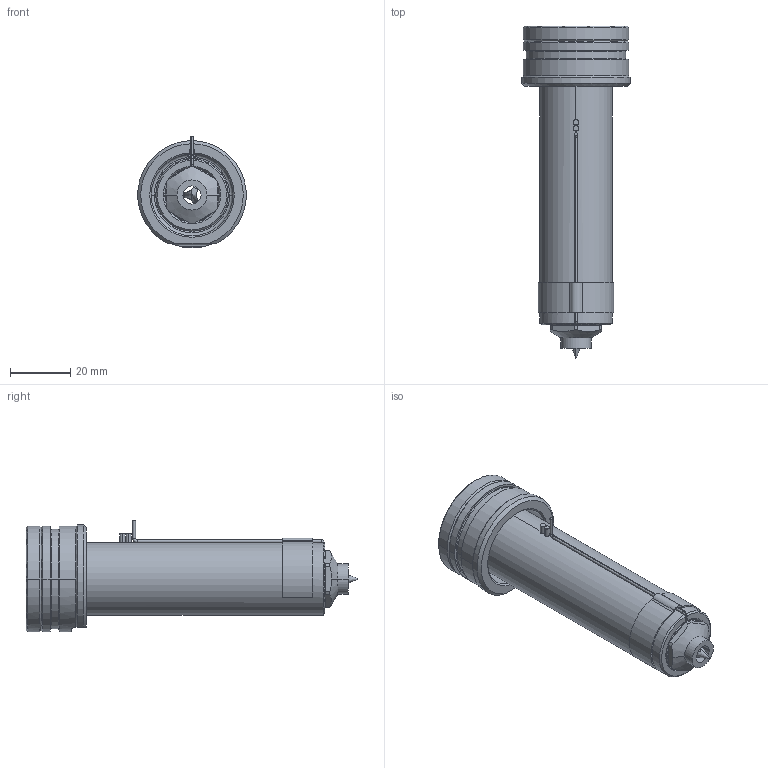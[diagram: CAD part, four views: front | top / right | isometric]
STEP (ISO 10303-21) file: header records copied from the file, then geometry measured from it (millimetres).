
FILE_DESCRIPTION((''),'2;1');
FILE_NAME('EO06_PG-BL_STD_090_SW','2024-02-19T11:01:28',('sundharh'),(''),'CREO PARAMETRIC BY PTC INC, 2023154','CREO PARAMETRIC BY PTC INC, 2023154','');
FILE_SCHEMA(('CONFIG_CONTROL_DESIGN'));
Length unit declared in the file: millimetre
Products named in the file (1): EO06_PG-BL_STD_090_SW
Bounding box: 35.93 x 110 x 37 mm (x, y, z)
Volume: 51655.5 mm3; surface area: 16030.6 mm2
Topology: 2 solids, 2 shells, 205 faces, 552 edges, 340 vertices
Faces by surface type: cylinder 83, plane 55, cone 38, torus 21, bspline 6, sphere 2
Entity records: 7433 total; most frequent: CARTESIAN_POINT 2199, DIRECTION 1151, ORIENTED_EDGE 1092, EDGE_CURVE 546, AXIS2_PLACEMENT_3D 484, VERTEX_POINT 340, CIRCLE 285, EDGE_LOOP 220
